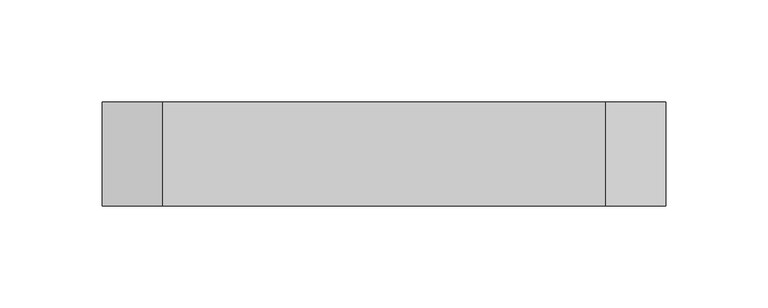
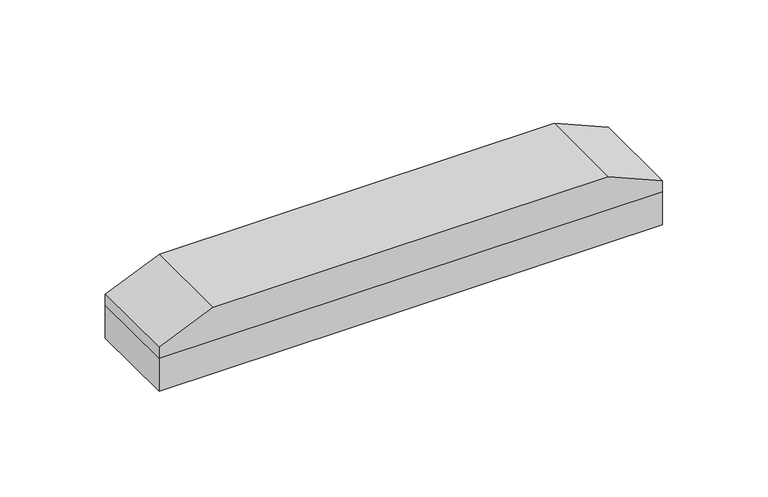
"""IFC4 building model written with IfcOpenShell, lengths in millimetres: proxy geometry, Spinneybeck_ARO Plank 8 : B - 2’-9” x 2” x 3/4”."""

from ifc_helpers import new_model, si_unit, frame, origin, origin_with_axes, place, context, project, spatial, polyline, outline, extrude, source, transform, mapped, element, save


def specialty_equipment_efb10dfa(model_context):
    return source(origin(), model_context, "Body", "SweptSolid", [
        extrude(outline(polyline([(19.05, -137.82831), (19.05, 137.82831), (25.4, 137.82831), (38.1, 108.1949767), (38.1, -108.1949767), (25.4, -137.82831), (19.05, -137.82831)])), frame((0.0, -25.4, 0.0), z_axis=(0.0, 1.0, 0.0), x_axis=(0.0, 0.0, 1.0)), (0.0, 0.0, 1.0), 50.8),
        extrude(outline(polyline([(-137.82831, -25.4), (-137.82831, 25.4), (137.82831, 25.4), (137.82831, -25.4), (-137.82831, -25.4)])), origin_with_axes(), (0.0, 0.0, 1.0), 19.05),
    ])


if __name__ == "__main__":
    model = new_model("IFC4")
    model_context = context("Model", 3, world=origin())
    ifc_project = project(units=[si_unit("LENGTHUNIT", "METRE", prefix="MILLI")], contexts=[model_context])
    site = spatial("IfcSite", under=ifc_project)
    building = spatial("IfcBuilding", under=site)
    placement = place(None, origin())
    specialty_equipment_shape = specialty_equipment_efb10dfa(model_context)
    element("IfcBuildingElementProxy", 1, Name="Spinneybeck_ARO Plank 8 : B - 2’-9” x 2” x 3/4”", ObjectType="Spinneybeck_ARO Plank 8 : B - 2’-9” x 2” x 3/4”", at=placement, inside=building, context=model_context, shape_type="MappedRepresentation", body=[
        mapped(specialty_equipment_shape, transform((0.0, 0.0, 0.0), x_axis=(1.0, 0.0, 0.0), y_axis=(0.0, 1.0, 0.0), z_axis=(0.0, 0.0, 1.0))),
    ])
    save(model, "model.ifc")
